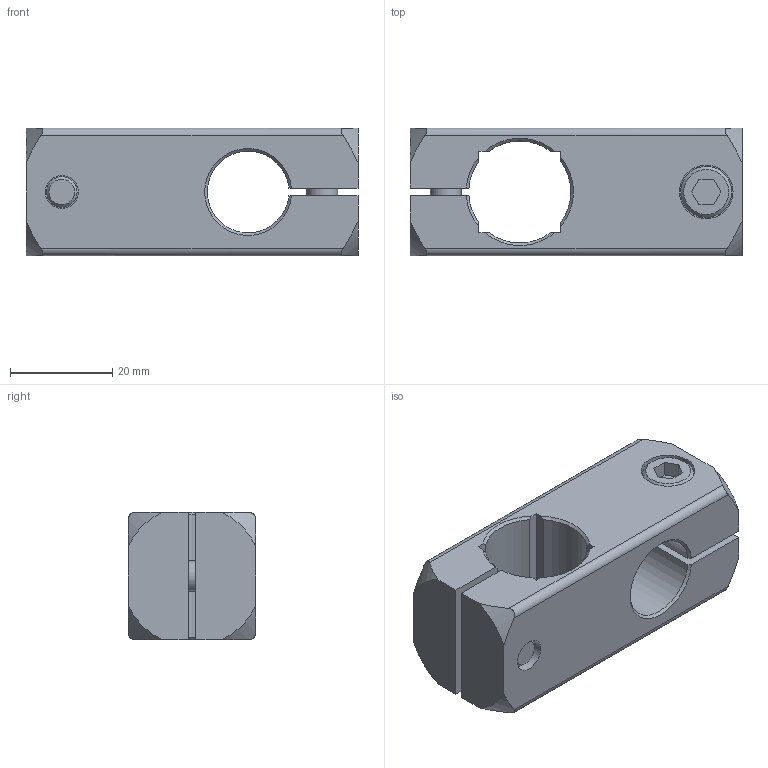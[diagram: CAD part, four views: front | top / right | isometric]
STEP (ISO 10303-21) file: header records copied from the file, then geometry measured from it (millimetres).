
FILE_DESCRIPTION( ( 'STEP AP203' ), '1' );
FILE_NAME( 'C:/Temp/Ganter_Step_05_03_2020/data/3_7/gn_474/Two-way clamp mounting GN 474-B20-B16-ELS.stp', '2020-03-12T14:44:55', ( 'License CC BY-ND 4.0' ), ( 'CADENAS' ), ' ', 'PARTsolutions', ' ' );
FILE_SCHEMA( ( 'CONFIG_CONTROL_DESIGN' ) );
Length unit declared in the file: millimetre
Products named in the file (1): _Two-way clamp mounting GN 474-B20-B16-ELS
Bounding box: 65 x 25 x 25 mm (x, y, z)
Volume: 25926.9 mm3; surface area: 12431.2 mm2
Topology: 1 solids, 1 shells, 86 faces, 220 edges, 146 vertices
Faces by surface type: plane 42, cone 24, cylinder 20
Full cylindrical faces by diameter (mm): 6 x2, 6.5 x4, 10 x2, 10.5 x2
Entity records: 2712 total; most frequent: CARTESIAN_POINT 675, ORIENTED_EDGE 408, DIRECTION 386, EDGE_CURVE 204, VERTEX_POINT 144, AXIS2_PLACEMENT_3D 143, EDGE_LOOP 114, LINE 100
